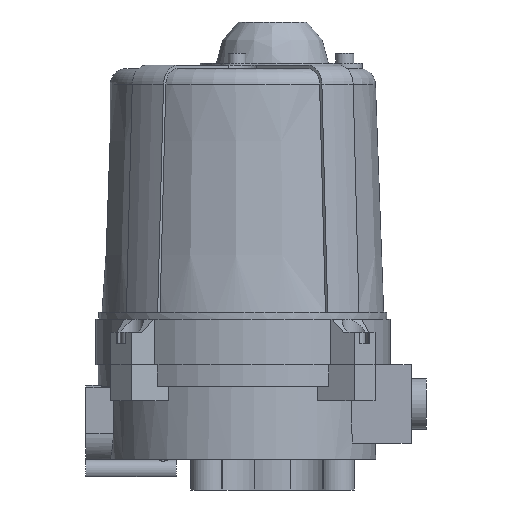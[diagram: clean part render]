
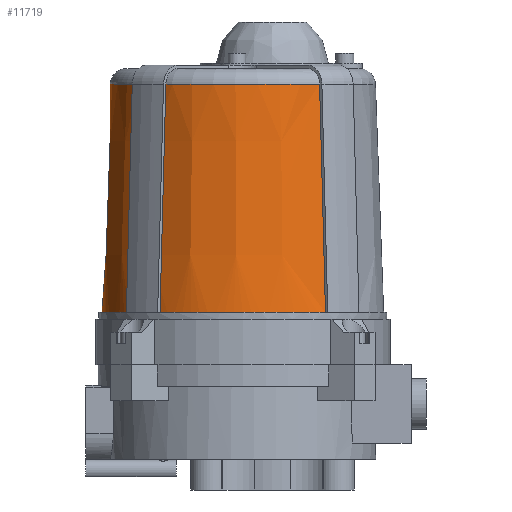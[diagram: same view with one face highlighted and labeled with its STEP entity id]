
A CAD part, left-side view. The second image highlights one B-rep face of the part: STEP entity #11719.
In plain terms, the highlighted conical face has half-angle 2.057 degrees and reference radius 53.02 mm.
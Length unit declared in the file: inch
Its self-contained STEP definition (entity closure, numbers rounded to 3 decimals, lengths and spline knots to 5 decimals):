
#9063=CARTESIAN_POINT('',(3.77091,-1.26163,2.24));
#9064=VERTEX_POINT('',#9063);
#9071=CARTESIAN_POINT('',(3.68122,-1.17194,5.72398));
#9072=VERTEX_POINT('',#9071);
#9073=CARTESIAN_POINT('',(3.68122,-1.17194,5.72398));
#9074=CARTESIAN_POINT('',(3.72472,-1.21544,4.03563));
#9075=CARTESIAN_POINT('',(3.77091,-1.26163,2.24));
#9083=(BOUNDED_CURVE()B_SPLINE_CURVE(2,(#9073,#9074,#9075),.UNSPECIFIED.,.F.,.U.)B_SPLINE_CURVE_WITH_KNOTS((3,3),(0.0,3.48628),.UNSPECIFIED.)CURVE()GEOMETRIC_REPRESENTATION_ITEM()RATIONAL_B_SPLINE_CURVE((1.0,1.,1.0))REPRESENTATION_ITEM(''));
#9084=EDGE_CURVE('',#9072,#9064,#9083,.T.);
#9377=CARTESIAN_POINT('',(0.37878,-1.17194,5.72398));
#9378=VERTEX_POINT('',#9377);
#9392=CARTESIAN_POINT('',(0.28909,-1.26163,2.24));
#9393=VERTEX_POINT('',#9392);
#9394=CARTESIAN_POINT('',(0.28909,-1.26163,2.24));
#9395=CARTESIAN_POINT('',(0.33528,-1.21544,4.03563));
#9396=CARTESIAN_POINT('',(0.37878,-1.17194,5.72398));
#9404=(BOUNDED_CURVE()B_SPLINE_CURVE(2,(#9394,#9395,#9396),.UNSPECIFIED.,.F.,.U.)B_SPLINE_CURVE_WITH_KNOTS((3,3),(0.0,3.48628),.UNSPECIFIED.)CURVE()GEOMETRIC_REPRESENTATION_ITEM()RATIONAL_B_SPLINE_CURVE((1.0,1.,1.0))REPRESENTATION_ITEM(''));
#9405=EDGE_CURVE('',#9393,#9378,#9404,.T.);
#11632=CARTESIAN_POINT('',(2.03,0.0,5.72398));
#11633=DIRECTION('',(0.0,0.0,-1.0));
#11634=DIRECTION('',(-1.0,0.0,0.0));
#11635=AXIS2_PLACEMENT_3D('',#11632,#11633,#11634);
#11636=CIRCLE('',#11635,2.02484);
#11637=EDGE_CURVE('',#9378,#9072,#11636,.T.);
#11698=CARTESIAN_POINT('',(2.03,0.0,2.24));
#11699=DIRECTION('',(0.0,0.0,-1.0));
#11700=DIRECTION('',(-1.0,0.0,0.0));
#11701=AXIS2_PLACEMENT_3D('',#11698,#11699,#11700);
#11702=CIRCLE('',#11701,2.15);
#11703=EDGE_CURVE('',#9393,#9064,#11702,.T.);
#11708=CARTESIAN_POINT('',(2.03,0.0,3.98199));
#11709=DIRECTION('',(0.0,0.0,-1.0));
#11710=DIRECTION('',(-1.0,0.0,0.0));
#11711=AXIS2_PLACEMENT_3D('',#11708,#11709,#11710);
#11712=CONICAL_SURFACE('',#11711,2.08742,2.057);
#11713=ORIENTED_EDGE('',*,*,#9084,.T.);
#11714=ORIENTED_EDGE('',*,*,#11703,.F.);
#11715=ORIENTED_EDGE('',*,*,#9405,.T.);
#11716=ORIENTED_EDGE('',*,*,#11637,.T.);
#11717=EDGE_LOOP('',(#11713,#11714,#11715,#11716));
#11718=FACE_OUTER_BOUND('',#11717,.T.);
#11719=ADVANCED_FACE('',(#11718),#11712,.T.);
